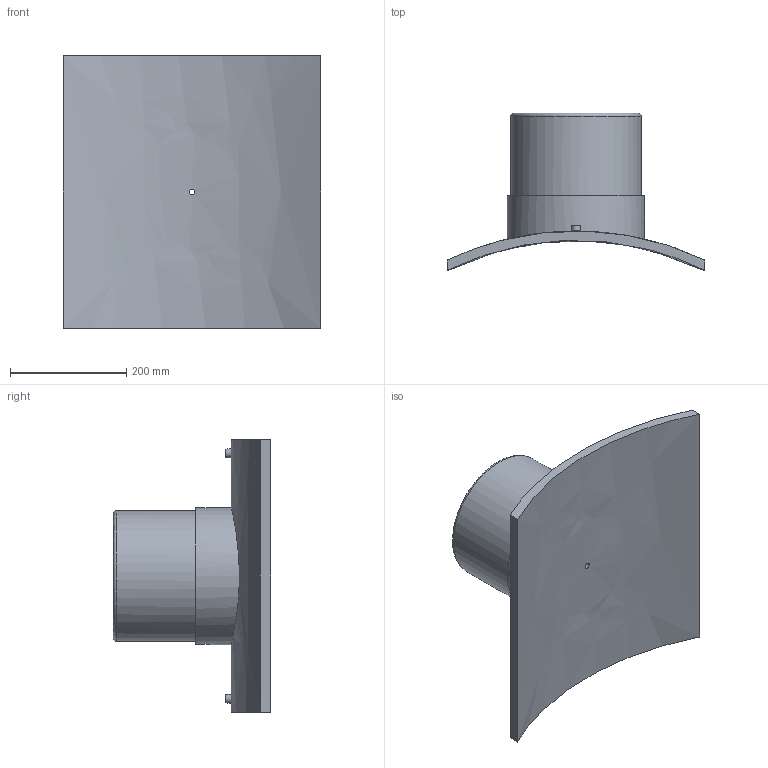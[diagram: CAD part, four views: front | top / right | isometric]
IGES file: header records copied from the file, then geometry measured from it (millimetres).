
Global section: file name: 4958031000225T; native system: Autodesk Inventor 2019; preprocessor: unknown; author: KIM; date: 20240404.114749; units: millimetre
Bounding box: 443 x 270.74 x 470 mm (x, y, z)
Volume: 6706457.5 mm3; surface area: 737549.6 mm2
Topology: 1 solids, 1 shells, 29 faces, 60 edges, 43 vertices
Faces by surface type: bspline 29
